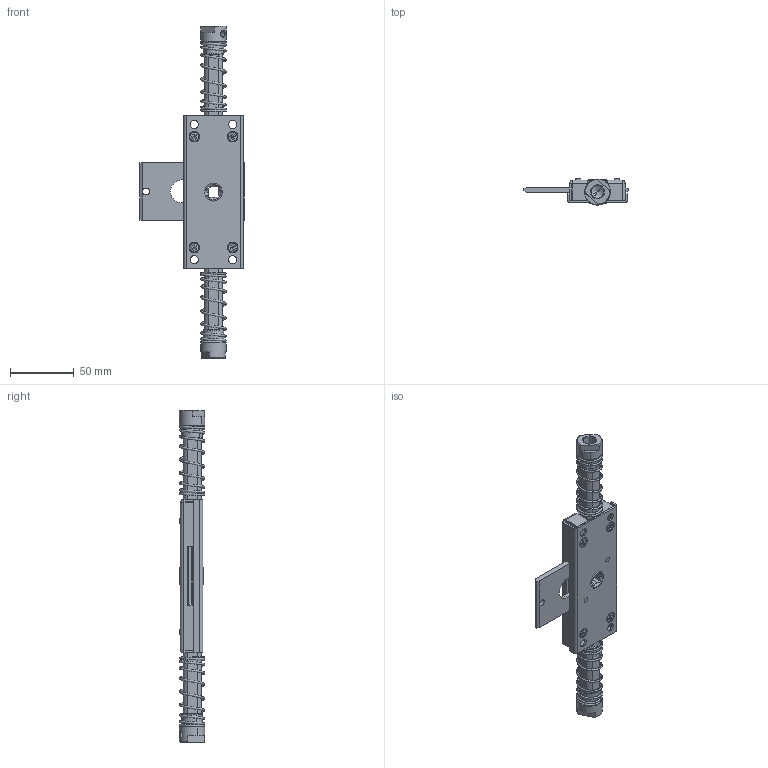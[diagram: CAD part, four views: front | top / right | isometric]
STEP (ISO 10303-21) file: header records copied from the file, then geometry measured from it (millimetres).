
FILE_DESCRIPTION (( 'STEP AP214' ), '1' );
FILE_NAME ('1B.ZW10.P - zamek wewnetrzny ZW prawy.STEP', '2016-09-07T09:53:16', ( '' ), ( '' ), 'SwSTEP 2.0', 'SolidWorks 2015', '' );
FILE_SCHEMA (( 'AUTOMOTIVE_DESIGN' ));
Length unit declared in the file: millimetre
Products named in the file (18): 1B.ZW.004_A; 5.SP.001_A; M4_M4 x 8; 1B.SAP.000.00.03_1B.SAP.000.00.03.D10; 1B.ZW.010_A; 1B.ZW.009_B; 1B.ZW.007_A; 1B.ZW.006_B; 1B.ZW.008_A; 1B.ZW.005.04_A; 1B.ZW.005_B.L; 1B.ZW.005.02_A; 1B.ZW.005.03_B; 1B.ZW.005.01_A; 1B.ZW.003_A; 1B.ZW.001_A; 1B.ZW.002_A; 1B.ZW10.P - zamek wewnetrzny ZW prawy
Assembly tree (26 placements, depth 3):
  1B.ZW10.P - zamek wewnetrzny ZW prawy
    1B.ZW.002_A
    1B.ZW.001_A
    1B.ZW.003_A  x4
    1B.ZW.005_B.L  x2
      1B.ZW.005.01_A
      1B.ZW.005.02_A
      1B.ZW.005.03_B
      1B.ZW.005.04_A
    1B.ZW.006_B
    1B.ZW.007_A
    1B.ZW.008_A
    1B.ZW.009_B
    1B.ZW.010_A
    1B.SAP.000.00.03_1B.SAP.000.00.03.D10  x2
    M4_M4 x 8  x4
    5.SP.001_A  x2
    1B.ZW.004_A
Bounding box: 82 x 20.2 x 260.35 mm (x, y, z)
Volume: 84355.6 mm3; surface area: 73168.3 mm2
Topology: 28 solids, 28 shells, 713 faces, 1669 edges, 1023 vertices
Faces by surface type: plane 313, cylinder 222, cone 150, bspline 16, torus 12
Entity records: 23224 total; most frequent: CARTESIAN_POINT 11636, DIRECTION 2354, ORIENTED_EDGE 2134, EDGE_CURVE 1067, AXIS2_PLACEMENT_3D 873, VERTEX_POINT 665, LINE 608, VECTOR 608
